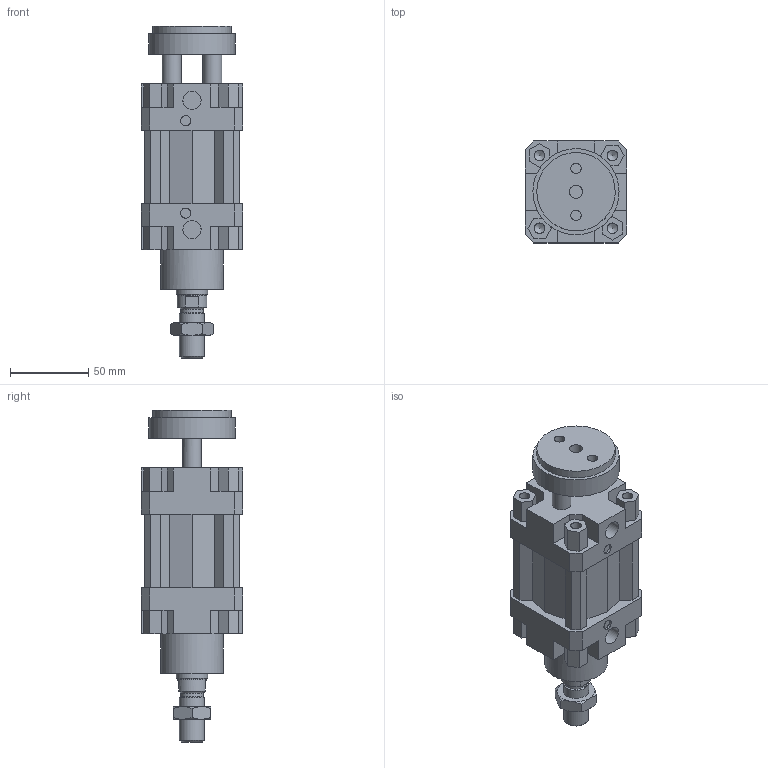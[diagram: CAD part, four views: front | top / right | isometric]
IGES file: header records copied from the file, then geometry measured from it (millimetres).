
Global section: file name: 132#_050_0000_02; native system: Autodesk Inventor 2014; preprocessor: unknown; author: A. Manieri; date: 20161006.155630; units: millimetre
Bounding box: 65 x 65 x 212 mm (x, y, z)
Volume: 437902.8 mm3; surface area: 96602.5 mm2
Topology: 3 solids, 3 shells, 220 faces, 590 edges, 398 vertices
Faces by surface type: bspline 220
